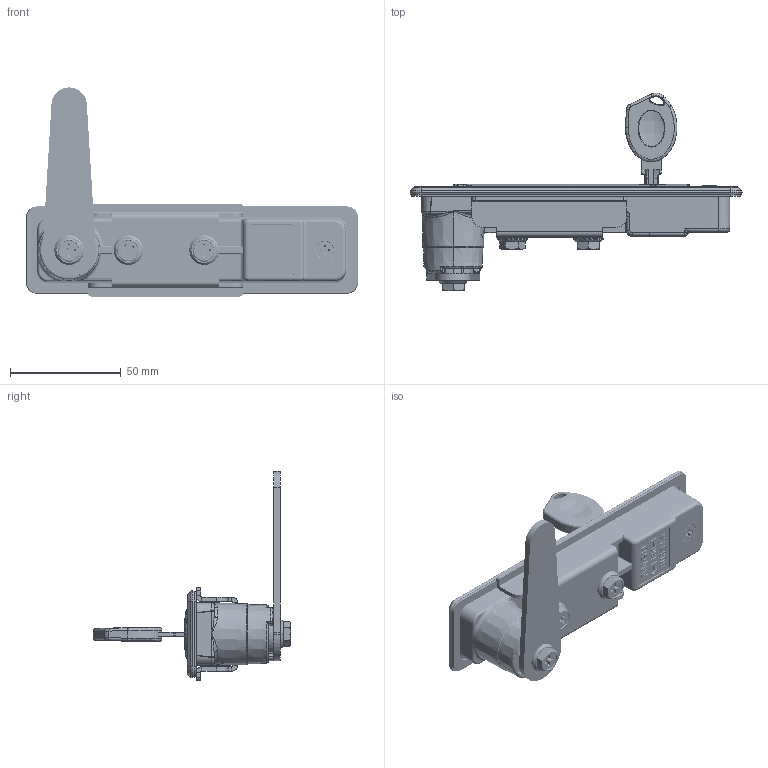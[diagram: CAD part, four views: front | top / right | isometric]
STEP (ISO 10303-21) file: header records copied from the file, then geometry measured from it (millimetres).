
FILE_DESCRIPTION (( 'STEP AP214' ), '1' );
FILE_NAME ('CUYUE A-1180-1.STEP', '2026-06-20T09:07:59', ( '' ), ( '' ), 'SwSTEP 2.0', 'SolidWorks 2020', '' );
FILE_SCHEMA (( 'AUTOMOTIVE_DESIGN' ));
Length unit declared in the file: millimetre
Products named in the file (22): A-1180-1____-4.STEP; A-1180-1____-6.STEP; CUYUE A-1180-1; 2.8X22______.STEP; 3X20____.STEP; 4X22________.STEP; 0.6x5.8-L14-Q6____.STEP; A-1180-1____-2.STEP; A-1180-1______________-0.STEP; 0.8X8______.STEP; 9320____.STEP; 9321-R____.STEP; A-1180-1____-1.STEP; A-1180-1________.STEP; A-1180-1____.STEP; A-1180-1____-5.STEP; A-1180-1______________.STEP; 2X16______.STEP; M4X6________.STEP; M6X10________.STEP; A-1180-1______-3.STEP; A-1180-1______.STEP
Assembly tree (23 placements, depth 2):
  CUYUE A-1180-1
    A-1180-1______________.STEP
    A-1180-1____.STEP
    A-1180-1______________-0.STEP
    A-1180-1____-1.STEP
    A-1180-1______.STEP
    9321-R____.STEP
    A-1180-1____-2.STEP
    M4X6________.STEP
    A-1180-1______-3.STEP
    A-1180-1____-4.STEP
    M6X10________.STEP  x3
    9320____.STEP
    2X16______.STEP
    2.8X22______.STEP
    3X20____.STEP
    A-1180-1____-5.STEP
    4X22________.STEP
    0.6x5.8-L14-Q6____.STEP
    A-1180-1________.STEP
    0.8X8______.STEP
    A-1180-1____-6.STEP
Bounding box: 150 x 89.4 x 94.5 mm (x, y, z)
Volume: 66653.3 mm3; surface area: 74536.4 mm2
Topology: 31 solids, 36 shells, 3445 faces, 8406 edges, 4933 vertices
Faces by surface type: cylinder 1153, plane 842, bspline 829, torus 402, sphere 129, cone 90
Entity records: 159336 total; most frequent: CARTESIAN_POINT 90574, ORIENTED_EDGE 15289, DIRECTION 12492, EDGE_CURVE 7653, AXIS2_PLACEMENT_3D 4870, VERTEX_POINT 4563, EDGE_LOOP 3347, FACE_OUTER_BOUND 3221
